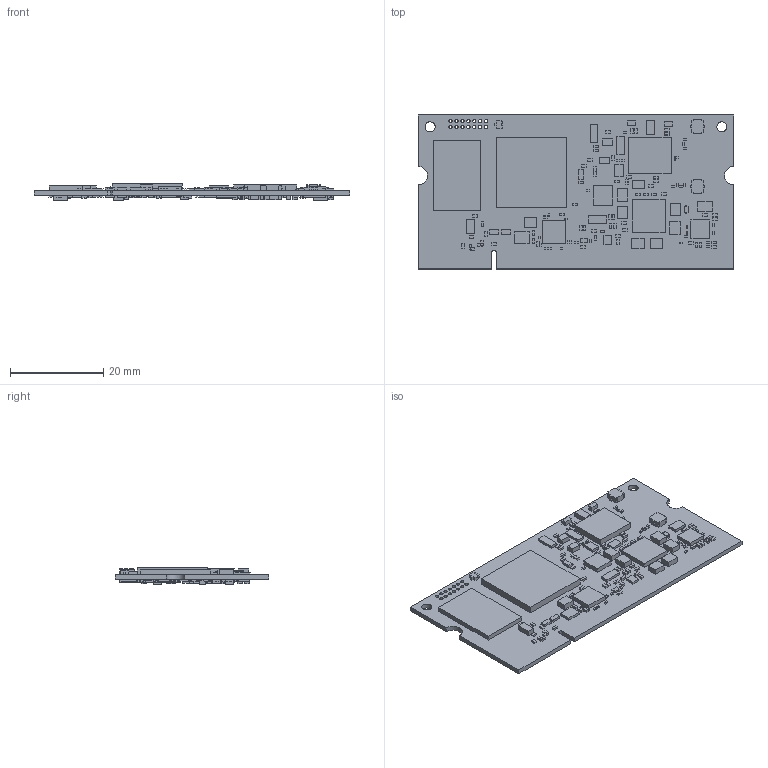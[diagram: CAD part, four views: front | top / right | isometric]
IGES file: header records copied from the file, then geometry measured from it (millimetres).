
Global section: file name: VAR-SOM-MX8MP-Rev2.0 v0; native system: unknown; preprocessor: unknown; author: unknown; organization: unknown; date: 20240819.173640; units: millimetre
Bounding box: 67.6 x 32.99 x 3.59 mm (x, y, z)
Volume: 3304 mm3; surface area: 7988.8 mm2
Topology: 395 solids, 395 shells, 2468 faces, 5034 edges, 3356 vertices
Faces by surface type: bspline 2468
